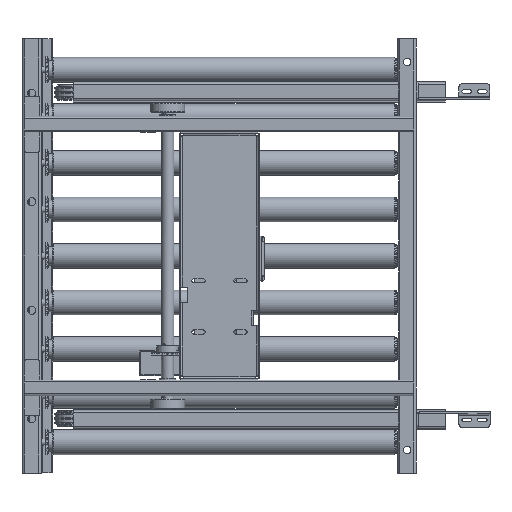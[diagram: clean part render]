
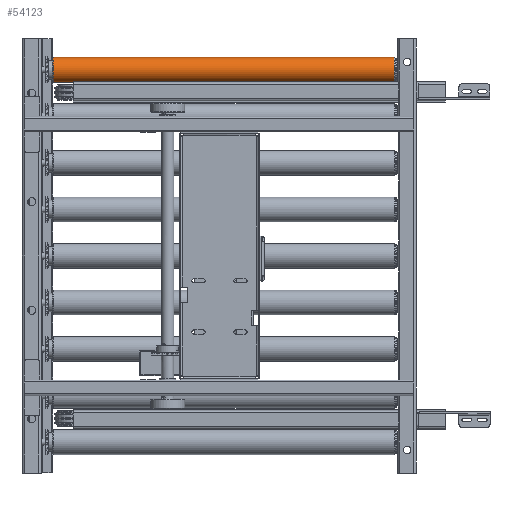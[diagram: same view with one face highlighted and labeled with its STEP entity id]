
A CAD part, front view. The second image highlights one B-rep face of the part: STEP entity #54123.
In plain terms, the highlighted cylindrical face has radius 40 mm (diameter 80 mm), a full revolution.
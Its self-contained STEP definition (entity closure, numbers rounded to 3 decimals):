
#3929=FACE_OUTER_BOUND('',#7005,.T.);
#7005=EDGE_LOOP('',(#38226,#38227,#38228,#38229));
#10268=CIRCLE('',#57804,40.);
#10269=CIRCLE('',#57806,40.);
#13357=LINE('',#82425,#17619);
#17619=VECTOR('',#65674,40.);
#22097=VERTEX_POINT('',#82419);
#22098=VERTEX_POINT('',#82423);
#28235=EDGE_CURVE('',#22097,#22097,#10268,.T.);
#28237=EDGE_CURVE('',#22098,#22098,#10269,.T.);
#28238=EDGE_CURVE('',#22098,#22097,#13357,.T.);
#38226=ORIENTED_EDGE('',*,*,#28237,.F.);
#38227=ORIENTED_EDGE('',*,*,#28238,.T.);
#38228=ORIENTED_EDGE('',*,*,#28235,.T.);
#38229=ORIENTED_EDGE('',*,*,#28238,.F.);
#52480=CYLINDRICAL_SURFACE('',#57805,40.);
#54123=ADVANCED_FACE('',(#3929),#52480,.T.);
#57804=AXIS2_PLACEMENT_3D('',#82420,#65667,#65668);
#57805=AXIS2_PLACEMENT_3D('',#82422,#65670,#65671);
#57806=AXIS2_PLACEMENT_3D('',#82424,#65672,#65673);
#65667=DIRECTION('center_axis',(-1.,0.,0.));
#65668=DIRECTION('ref_axis',(0.,-1.,0.));
#65670=DIRECTION('center_axis',(-1.,0.,0.));
#65671=DIRECTION('ref_axis',(0.,-1.,0.));
#65672=DIRECTION('center_axis',(-1.,0.,0.));
#65673=DIRECTION('ref_axis',(0.,-1.,0.));
#65674=DIRECTION('',(1.,0.,0.));
#82419=CARTESIAN_POINT('',(464.,130.,600.));
#82420=CARTESIAN_POINT('Origin',(464.,90.,600.));
#82422=CARTESIAN_POINT('Origin',(-364.,90.,600.));
#82423=CARTESIAN_POINT('',(-635.,130.,600.));
#82424=CARTESIAN_POINT('Origin',(-635.,90.,600.));
#82425=CARTESIAN_POINT('',(-364.,130.,600.));
